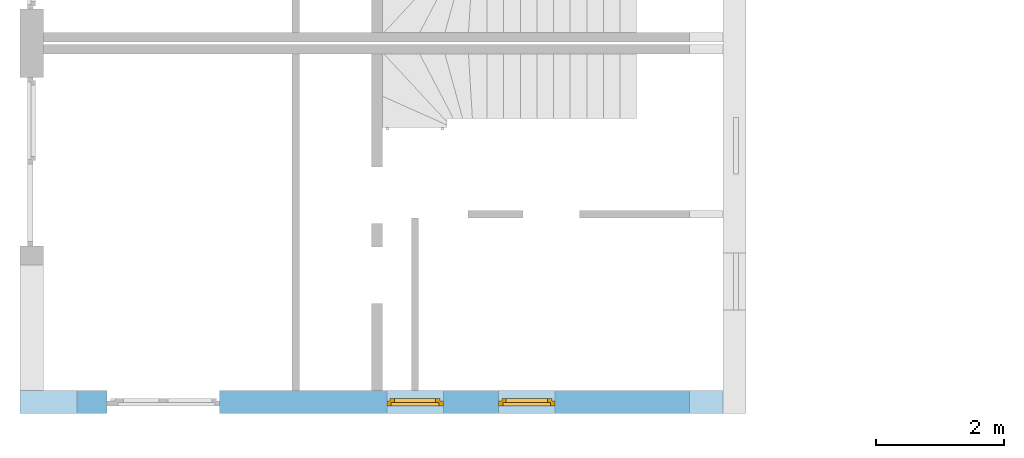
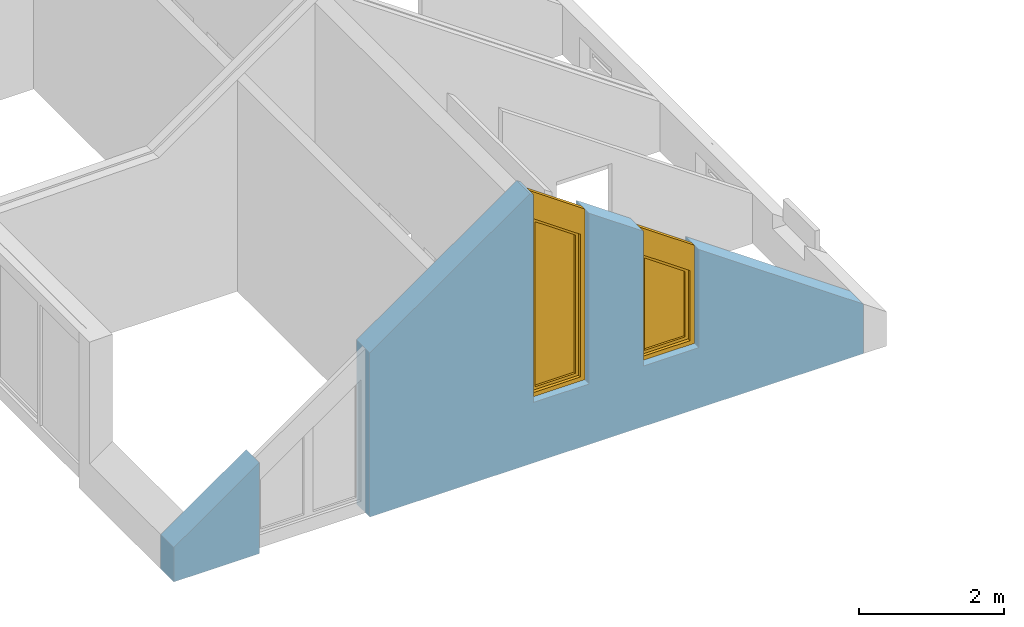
# One storey, part 5 of 23: 2 windows, 3 openings, plus 1 element that does not belong to this part.
"""IFC2X3 building model written with IfcOpenShell, lengths in millimetres."""

from ifc_helpers import new_model, entity, si_unit, converted_unit, frame, frame_2d, origin, origin_with_axes, place, context, subcontext, project, spatial, polyline, rectangle, outline, extrude, clip, bounded_halfspace, faceted_brep, material, layer, layer_set, layer_usage, type_object, element, fill, save


model = new_model("IFC2X3")

# Units and contexts
model_context = context("Model", 3, precision=1e-05, world=origin())
body_context = subcontext(model_context, "Body", "Model", "MODEL_VIEW")
ifc_project = project(units=[si_unit("LENGTHUNIT", "METRE", prefix="MILLI"), converted_unit("PLANEANGLEUNIT", "DEGREE", entity("IfcPlaneAngleMeasure", 0.0174532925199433), si_unit("PLANEANGLEUNIT", "RADIAN"), dimensions=[0, 0, 0, 0, 0, 0, 0]), si_unit("AREAUNIT", "SQUARE_METRE"), si_unit("VOLUMEUNIT", "CUBIC_METRE")], contexts=[model_context])

# Building, storey
building_placement = place(None, origin())
building = spatial("IfcBuilding", under=ifc_project, at=building_placement, Name="Gebäude", CompositionType="ELEMENT")
storey_placement = place(building_placement, frame((0.0, 0.0, 5580.0), z_axis=(0.0, 0.0, 1.0), x_axis=(1.0, 0.0, 0.0)))
storey = spatial("IfcBuildingStorey", under=building, at=storey_placement, Name="DG.- Grundriss", CompositionType="ELEMENT", Elevation=5580.0)

# Wall, openings, windows
ifc_material_1 = material(Name="Poroton")
ifc_layer = layer(ifc_material_1, 365.0000000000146)
ifc_layer_set = layer_set([ifc_layer])
ifc_layer_usage = layer_usage(ifc_layer_set, "AXIS2", "POSITIVE", 0.0)
wall_placement = place(storey_placement, frame((130992.7928067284, 125274.8877324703, 0.0), z_axis=(0.0, 0.0, 1.0), x_axis=(1.0, -2.749253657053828e-11, 0.0)))
wall = element("IfcWallStandardCase", 1, at=wall_placement, inside=storey, material=ifc_layer_usage, Name="<Unnamed Element>", context=body_context, shape_type="Clipping", body=[
    clip(clip(extrude(rectangle(XDim=10999.99999999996, YDim=365.0000000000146, at=frame_2d((5499.999999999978, 182.5000000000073), x_axis=(1.0, 0.0))), origin_with_axes(), (0.0, 0.0, 1.0), 4558.929335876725), bounded_halfspace(frame((5682.499999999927, -3.022829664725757e-12, 4558.929335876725), z_axis=(-0.5735764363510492, -1.576907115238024e-11, -0.8191520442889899), x_axis=(0.8191520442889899, 4.656618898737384e-16, -0.573576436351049)), True, origin(), polyline([(5682.499999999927, -3.022829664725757e-12), (10999.99999999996, 0.0), (10999.99999998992, 365.0000000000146), (5682.499999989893, 365.0000000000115), (5682.499999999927, -3.022829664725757e-12)]))), bounded_halfspace(frame((-1.003477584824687e-08, 365.0000000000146, 580.0000000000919), z_axis=(0.5735764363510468, 1.576907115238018e-11, -0.8191520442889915), x_axis=(2.749253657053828e-11, -1.0, 0.0)), True, origin(), polyline([(-1.003477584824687e-08, 365.0000000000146), (0.0, 0.0), (5682.499999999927, -3.022829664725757e-12), (5682.499999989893, 365.0000000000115), (-1.003477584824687e-08, 365.0000000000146)]))),
])
opening_1_placement = place(wall_placement, frame((1364.999999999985, -7.494236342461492e-12, 0.0), z_axis=(0.0, 1.0, 0.0), x_axis=(0.0, 0.0, 1.0)))
element("IfcOpeningElement", 2, at=opening_1_placement, cuts=wall, Name="Fensteröffnung", ObjectType="Opening", context=body_context, shape_type="SweptSolid", body=[
    extrude(outline(polyline([(1535.783289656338, 0.0), (0.0, 0.0), (0.0, 1760.0), (2768.148556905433, 1760.0), (1535.783289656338, 0.0)])), origin_with_axes(), (0.0, 0.0, 1.0), 365.0000000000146),
])
opening_2_placement = place(wall_placement, frame((7489.999999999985, -3.477907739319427e-11, 1020.0), z_axis=(0.0, 1.0, 0.0), x_axis=(0.0, 0.0, 1.0)))
opening_2 = element("IfcOpeningElement", 3, at=opening_2_placement, cuts=wall, Name="Fensteröffnung", ObjectType="Opening", context=body_context, shape_type="SweptSolid", body=[
    extrude(outline(polyline([(2273.304210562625, 0.0), (0.0, 0.0), (0.0, 885.0), (1653.620539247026, 885.0), (2273.304210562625, 0.0)])), origin_with_axes(), (0.0, 0.0, 1.0), 365.0000000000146),
])
opening_3_placement = place(wall_placement, frame((5739.999999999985, -1.658918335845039e-11, 1020.0), z_axis=(0.0, 1.0, 0.0), x_axis=(0.0, 0.0, 1.0)))
opening_3 = element("IfcOpeningElement", 4, at=opening_3_placement, cuts=wall, Name="Fensteröffnung", ObjectType="Opening", context=body_context, shape_type="SweptSolid", body=[
    extrude(outline(polyline([(3498.667402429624, 0.0), (0.0, 0.0), (0.0, 885.0), (2878.983731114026, 885.0), (3498.667402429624, 0.0)])), origin_with_axes(), (0.0, 0.0, 1.0), 365.0),
])
ifc_material_2 = material()
window_style_1 = type_object("IfcWindowStyle", Name="Fenster", ConstructionType="NOTDEFINED", OperationType="USERDEFINED", ParameterTakesPrecedence=False, Sizeable=False)
window_1_placement = place(opening_2_placement, frame((0.0, 0.0, 0.0), z_axis=(1.0, 0.0, 0.0), x_axis=(0.0, 1.0, 0.0)))
window_1 = element("IfcWindow", 5, at=window_1_placement, inside=storey, type_object=window_style_1, material=ifc_material_2, Name="Fenster", OverallHeight=2273.304210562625, OverallWidth=885.0, context=body_context, shape_type="Brep", body=[
    faceted_brep([(-1.224022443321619e-08, 200.0000000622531, -2.449293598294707e-15), (884.9999999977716, 200.000000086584, -2.449293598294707e-15), (884.9999999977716, 200.0000000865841, 1653.620539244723), (-1.22402244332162e-08, 200.0000000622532, 2273.304210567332), (814.9999999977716, 200.0000000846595, 69.99999999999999), (69.99999998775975, 200.0000000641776, 69.99999999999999), (69.99999998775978, 200.0000000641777, 1772.603085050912), (814.9999999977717, 200.0000000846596, 1250.948469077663), (884.999999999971, 120.000000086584, 2.449293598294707e-15), (-1.004082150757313e-08, 120.0000000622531, 2.449293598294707e-15), (-1.004082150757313e-08, 120.0000000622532, 2273.304210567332), (884.999999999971, 120.0000000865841, 1653.620539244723), (69.99999998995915, 120.0000000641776, 69.99999999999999), (814.999999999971, 120.0000000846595, 69.99999999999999), (814.9999999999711, 120.0000000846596, 1250.948469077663), (69.99999998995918, 120.0000000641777, 1772.603085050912), (884.9999999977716, 200.000000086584, -2.449293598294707e-15), (-1.224022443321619e-08, 200.0000000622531, -2.449293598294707e-15), (-1.004082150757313e-08, 120.0000000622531, 2.449293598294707e-15), (884.999999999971, 120.000000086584, 2.449293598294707e-15), (884.9999999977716, 200.0000000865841, 1653.620539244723), (884.9999999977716, 200.000000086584, -2.449293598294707e-15), (884.999999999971, 120.000000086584, 2.449293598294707e-15), (884.999999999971, 120.0000000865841, 1653.620539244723), (-1.22402244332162e-08, 200.0000000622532, 2273.304210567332), (884.9999999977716, 200.0000000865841, 1653.620539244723), (884.999999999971, 120.0000000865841, 1653.620539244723), (-1.004082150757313e-08, 120.0000000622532, 2273.304210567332), (-1.224022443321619e-08, 200.0000000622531, -2.449293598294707e-15), (-1.22402244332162e-08, 200.0000000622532, 2273.304210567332), (-1.004082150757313e-08, 120.0000000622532, 2273.304210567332), (-1.004082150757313e-08, 120.0000000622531, 2.449293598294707e-15), (814.9999999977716, 200.0000000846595, 69.99999999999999), (814.999999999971, 120.0000000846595, 69.99999999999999), (69.99999998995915, 120.0000000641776, 69.99999999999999), (69.99999998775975, 200.0000000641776, 69.99999999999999), (814.9999999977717, 200.0000000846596, 1250.948469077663), (814.9999999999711, 120.0000000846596, 1250.948469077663), (814.999999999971, 120.0000000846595, 69.99999999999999), (814.9999999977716, 200.0000000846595, 69.99999999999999), (69.99999998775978, 200.0000000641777, 1772.603085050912), (69.99999998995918, 120.0000000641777, 1772.603085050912), (814.9999999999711, 120.0000000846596, 1250.948469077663), (814.9999999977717, 200.0000000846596, 1250.948469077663), (69.99999998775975, 200.0000000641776, 69.99999999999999), (69.99999998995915, 120.0000000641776, 69.99999999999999), (69.99999998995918, 120.0000000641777, 1772.603085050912), (69.99999998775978, 200.0000000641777, 1772.603085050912)], [[[0, 1, 2, 3], [4, 5, 6, 7]], [[8, 9, 10, 11], [12, 13, 14, 15]], [[16, 17, 18, 19]], [[20, 21, 22, 23]], [[24, 25, 26, 27]], [[28, 29, 30, 31]], [[32, 33, 34, 35]], [[36, 37, 38, 39]], [[40, 41, 42, 43]], [[44, 45, 46, 47]]], orient=[[False, False], [False, False], [False], [False], [False], [False], [False], [False], [False], [False]]),
    faceted_brep([(69.99999998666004, 240.0000000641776, 69.99999999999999), (814.9999999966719, 240.0000000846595, 69.99999999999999), (814.999999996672, 240.0000000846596, 1250.948469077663), (69.99999998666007, 240.0000000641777, 1772.603085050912), (764.9999999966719, 240.0000000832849, 120.0), (119.99999998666, 240.0000000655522, 120.0), (119.9999999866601, 240.0000000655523, 1676.553978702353), (764.999999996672, 240.000000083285, 1224.920116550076), (814.9999999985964, 170.0000000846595, 69.99999999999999), (69.99999998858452, 170.0000000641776, 69.99999999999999), (69.99999998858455, 170.0000000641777, 1772.603085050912), (814.9999999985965, 170.0000000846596, 1250.948469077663), (119.9999999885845, 170.0000000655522, 120.0), (764.9999999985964, 170.0000000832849, 120.0), (764.9999999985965, 170.000000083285, 1224.920116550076), (119.9999999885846, 170.0000000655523, 1676.553978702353), (814.9999999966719, 240.0000000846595, 69.99999999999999), (69.99999998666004, 240.0000000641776, 69.99999999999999), (69.99999998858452, 170.0000000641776, 69.99999999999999), (814.9999999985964, 170.0000000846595, 69.99999999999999), (814.999999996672, 240.0000000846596, 1250.948469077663), (814.9999999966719, 240.0000000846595, 69.99999999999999), (814.9999999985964, 170.0000000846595, 69.99999999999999), (814.9999999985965, 170.0000000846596, 1250.948469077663), (69.99999998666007, 240.0000000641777, 1772.603085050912), (814.999999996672, 240.0000000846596, 1250.948469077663), (814.9999999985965, 170.0000000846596, 1250.948469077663), (69.99999998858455, 170.0000000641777, 1772.603085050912), (69.99999998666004, 240.0000000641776, 69.99999999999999), (69.99999998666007, 240.0000000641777, 1772.603085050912), (69.99999998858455, 170.0000000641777, 1772.603085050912), (69.99999998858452, 170.0000000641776, 69.99999999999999), (764.9999999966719, 240.0000000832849, 120.0), (764.9999999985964, 170.0000000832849, 120.0), (119.9999999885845, 170.0000000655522, 120.0), (119.99999998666, 240.0000000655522, 120.0), (764.999999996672, 240.000000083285, 1224.920116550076), (764.9999999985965, 170.000000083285, 1224.920116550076), (764.9999999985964, 170.0000000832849, 120.0), (764.9999999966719, 240.0000000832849, 120.0), (119.9999999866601, 240.0000000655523, 1676.553978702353), (119.9999999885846, 170.0000000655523, 1676.553978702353), (764.9999999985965, 170.000000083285, 1224.920116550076), (764.999999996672, 240.000000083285, 1224.920116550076), (119.99999998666, 240.0000000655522, 120.0), (119.9999999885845, 170.0000000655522, 120.0), (119.9999999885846, 170.0000000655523, 1676.553978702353), (119.9999999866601, 240.0000000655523, 1676.553978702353)], [[[0, 1, 2, 3], [4, 5, 6, 7]], [[8, 9, 10, 11], [12, 13, 14, 15]], [[16, 17, 18, 19]], [[20, 21, 22, 23]], [[24, 25, 26, 27]], [[28, 29, 30, 31]], [[32, 33, 34, 35]], [[36, 37, 38, 39]], [[40, 41, 42, 43]], [[44, 45, 46, 47]]], orient=[[False, False], [False, False], [False], [False], [False], [False], [False], [False], [False], [False]]),
    faceted_brep([(49.99999998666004, 240.0000000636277, 49.99999999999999), (834.9999999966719, 240.0000000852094, 49.99999999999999), (834.999999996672, 240.0000000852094, 1261.359810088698), (49.99999998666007, 240.0000000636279, 1811.022727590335), (814.9999999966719, 240.0000000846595, 69.99999999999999), (69.99999998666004, 240.0000000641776, 69.99999999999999), (69.99999998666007, 240.0000000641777, 1772.603085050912), (814.999999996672, 240.0000000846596, 1250.948469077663), (834.9999999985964, 170.0000000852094, 49.99999999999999), (49.99999998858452, 170.0000000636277, 49.99999999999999), (49.99999998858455, 170.0000000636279, 1811.022727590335), (834.9999999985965, 170.0000000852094, 1261.359810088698), (69.99999998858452, 170.0000000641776, 69.99999999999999), (814.9999999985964, 170.0000000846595, 69.99999999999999), (814.9999999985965, 170.0000000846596, 1250.948469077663), (69.99999998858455, 170.0000000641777, 1772.603085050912), (834.9999999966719, 240.0000000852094, 49.99999999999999), (49.99999998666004, 240.0000000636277, 49.99999999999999), (49.99999998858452, 170.0000000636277, 49.99999999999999), (834.9999999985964, 170.0000000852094, 49.99999999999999), (834.999999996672, 240.0000000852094, 1261.359810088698), (834.9999999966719, 240.0000000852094, 49.99999999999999), (834.9999999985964, 170.0000000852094, 49.99999999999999), (834.9999999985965, 170.0000000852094, 1261.359810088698), (49.99999998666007, 240.0000000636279, 1811.022727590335), (834.999999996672, 240.0000000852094, 1261.359810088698), (834.9999999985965, 170.0000000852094, 1261.359810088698), (49.99999998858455, 170.0000000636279, 1811.022727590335), (49.99999998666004, 240.0000000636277, 49.99999999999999), (49.99999998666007, 240.0000000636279, 1811.022727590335), (49.99999998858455, 170.0000000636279, 1811.022727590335), (49.99999998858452, 170.0000000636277, 49.99999999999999), (814.9999999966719, 240.0000000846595, 69.99999999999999), (814.9999999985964, 170.0000000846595, 69.99999999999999), (69.99999998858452, 170.0000000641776, 69.99999999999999), (69.99999998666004, 240.0000000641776, 69.99999999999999), (814.999999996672, 240.0000000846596, 1250.948469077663), (814.9999999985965, 170.0000000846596, 1250.948469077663), (814.9999999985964, 170.0000000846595, 69.99999999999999), (814.9999999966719, 240.0000000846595, 69.99999999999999), (69.99999998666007, 240.0000000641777, 1772.603085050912), (69.99999998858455, 170.0000000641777, 1772.603085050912), (814.9999999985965, 170.0000000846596, 1250.948469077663), (814.999999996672, 240.0000000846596, 1250.948469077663), (69.99999998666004, 240.0000000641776, 69.99999999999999), (69.99999998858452, 170.0000000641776, 69.99999999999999), (69.99999998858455, 170.0000000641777, 1772.603085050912), (69.99999998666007, 240.0000000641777, 1772.603085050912)], [[[0, 1, 2, 3], [4, 5, 6, 7]], [[8, 9, 10, 11], [12, 13, 14, 15]], [[16, 17, 18, 19]], [[20, 21, 22, 23]], [[24, 25, 26, 27]], [[28, 29, 30, 31]], [[32, 33, 34, 35]], [[36, 37, 38, 39]], [[40, 41, 42, 43]], [[44, 45, 46, 47]]], orient=[[False, False], [False, False], [False], [False], [False], [False], [False], [False], [False], [False]]),
    faceted_brep([(764.9999999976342, 205.0000000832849, 120.0), (764.9999999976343, 205.000000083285, 1224.920116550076), (119.9999999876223, 205.0000000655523, 1676.553978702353), (119.9999999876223, 205.0000000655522, 120.0), (764.9999999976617, 204.0000000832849, 120.0), (119.9999999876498, 204.0000000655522, 120.0), (119.9999999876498, 204.0000000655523, 1676.553978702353), (764.9999999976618, 204.000000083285, 1224.920116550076), (764.9999999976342, 205.0000000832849, 120.0), (764.9999999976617, 204.0000000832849, 120.0), (764.9999999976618, 204.000000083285, 1224.920116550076), (764.9999999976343, 205.000000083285, 1224.920116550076), (764.9999999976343, 205.000000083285, 1224.920116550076), (764.9999999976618, 204.000000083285, 1224.920116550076), (119.9999999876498, 204.0000000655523, 1676.553978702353), (119.9999999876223, 205.0000000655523, 1676.553978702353), (119.9999999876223, 205.0000000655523, 1676.553978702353), (119.9999999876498, 204.0000000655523, 1676.553978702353), (119.9999999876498, 204.0000000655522, 120.0), (119.9999999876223, 205.0000000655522, 120.0), (119.9999999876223, 205.0000000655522, 120.0), (119.9999999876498, 204.0000000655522, 120.0), (764.9999999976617, 204.0000000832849, 120.0), (764.9999999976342, 205.0000000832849, 120.0)], [[[0, 1, 2, 3]], [[4, 5, 6, 7]], [[8, 9, 10, 11]], [[12, 13, 14, 15]], [[16, 17, 18, 19]], [[20, 21, 22, 23]]], orient=[[False], [False], [False], [False], [False], [False]]),
])
fill(opening_2, window_1)
ifc_material_3 = material()
window_style_2 = type_object("IfcWindowStyle", Name="Fenster", ConstructionType="NOTDEFINED", OperationType="USERDEFINED", ParameterTakesPrecedence=False, Sizeable=False)
window_2_placement = place(opening_3_placement, frame((0.0, 0.0, 0.0), z_axis=(1.0, 0.0, 0.0), x_axis=(0.0, 1.0, 0.0)))
window_2 = element("IfcWindow", 6, at=window_2_placement, inside=storey, type_object=window_style_2, material=ifc_material_3, Name="Fenster", OverallHeight=3498.667402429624, OverallWidth=885.0, context=body_context, shape_type="Brep", body=[
    faceted_brep([(-1.224022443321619e-08, 200.0000000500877, -2.449293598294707e-15), (884.9999999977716, 200.0000000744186, -2.449293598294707e-15), (884.9999999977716, 200.0000000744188, 2878.983731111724), (-1.22402244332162e-08, 200.0000000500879, 3498.667402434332), (814.9999999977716, 200.0000000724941, 69.99999999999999), (69.99999998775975, 200.0000000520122, 69.99999999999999), (69.99999998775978, 200.0000000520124, 2997.966276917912), (814.9999999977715, 200.0000000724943, 2476.311660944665), (884.999999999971, 120.0000000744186, 2.449293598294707e-15), (-1.004082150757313e-08, 120.0000000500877, 2.449293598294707e-15), (-1.004082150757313e-08, 120.0000000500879, 3498.667402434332), (884.999999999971, 120.0000000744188, 2878.983731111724), (69.99999998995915, 120.0000000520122, 69.99999999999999), (814.999999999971, 120.0000000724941, 69.99999999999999), (814.9999999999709, 120.0000000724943, 2476.311660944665), (69.99999998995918, 120.0000000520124, 2997.966276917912), (884.9999999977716, 200.0000000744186, -2.449293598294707e-15), (-1.224022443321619e-08, 200.0000000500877, -2.449293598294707e-15), (-1.004082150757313e-08, 120.0000000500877, 2.449293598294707e-15), (884.999999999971, 120.0000000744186, 2.449293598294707e-15), (884.9999999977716, 200.0000000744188, 2878.983731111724), (884.9999999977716, 200.0000000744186, -2.449293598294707e-15), (884.999999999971, 120.0000000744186, 2.449293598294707e-15), (884.999999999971, 120.0000000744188, 2878.983731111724), (-1.22402244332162e-08, 200.0000000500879, 3498.667402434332), (884.9999999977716, 200.0000000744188, 2878.983731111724), (884.999999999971, 120.0000000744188, 2878.983731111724), (-1.004082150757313e-08, 120.0000000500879, 3498.667402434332), (-1.224022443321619e-08, 200.0000000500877, -2.449293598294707e-15), (-1.22402244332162e-08, 200.0000000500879, 3498.667402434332), (-1.004082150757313e-08, 120.0000000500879, 3498.667402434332), (-1.004082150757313e-08, 120.0000000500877, 2.449293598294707e-15), (814.9999999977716, 200.0000000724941, 69.99999999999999), (814.999999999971, 120.0000000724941, 69.99999999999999), (69.99999998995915, 120.0000000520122, 69.99999999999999), (69.99999998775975, 200.0000000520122, 69.99999999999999), (814.9999999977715, 200.0000000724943, 2476.311660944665), (814.9999999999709, 120.0000000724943, 2476.311660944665), (814.999999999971, 120.0000000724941, 69.99999999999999), (814.9999999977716, 200.0000000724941, 69.99999999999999), (69.99999998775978, 200.0000000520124, 2997.966276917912), (69.99999998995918, 120.0000000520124, 2997.966276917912), (814.9999999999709, 120.0000000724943, 2476.311660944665), (814.9999999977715, 200.0000000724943, 2476.311660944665), (69.99999998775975, 200.0000000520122, 69.99999999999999), (69.99999998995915, 120.0000000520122, 69.99999999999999), (69.99999998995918, 120.0000000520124, 2997.966276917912), (69.99999998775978, 200.0000000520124, 2997.966276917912)], [[[0, 1, 2, 3], [4, 5, 6, 7]], [[8, 9, 10, 11], [12, 13, 14, 15]], [[16, 17, 18, 19]], [[20, 21, 22, 23]], [[24, 25, 26, 27]], [[28, 29, 30, 31]], [[32, 33, 34, 35]], [[36, 37, 38, 39]], [[40, 41, 42, 43]], [[44, 45, 46, 47]]], orient=[[False, False], [False, False], [False], [False], [False], [False], [False], [False], [False], [False]]),
    faceted_brep([(69.99999998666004, 240.0000000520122, 69.99999999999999), (814.9999999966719, 240.0000000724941, 69.99999999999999), (814.9999999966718, 240.0000000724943, 2476.311660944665), (69.99999998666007, 240.0000000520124, 2997.966276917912), (764.9999999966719, 240.0000000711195, 120.0), (119.99999998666, 240.0000000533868, 120.0), (119.9999999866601, 240.000000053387, 2901.917170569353), (764.9999999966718, 240.0000000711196, 2450.283308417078), (814.9999999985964, 170.0000000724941, 69.99999999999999), (69.99999998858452, 170.0000000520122, 69.99999999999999), (69.99999998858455, 170.0000000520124, 2997.966276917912), (814.9999999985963, 170.0000000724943, 2476.311660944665), (119.9999999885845, 170.0000000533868, 120.0), (764.9999999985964, 170.0000000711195, 120.0), (764.9999999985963, 170.0000000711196, 2450.283308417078), (119.9999999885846, 170.000000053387, 2901.917170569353), (814.9999999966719, 240.0000000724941, 69.99999999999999), (69.99999998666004, 240.0000000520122, 69.99999999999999), (69.99999998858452, 170.0000000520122, 69.99999999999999), (814.9999999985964, 170.0000000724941, 69.99999999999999), (814.9999999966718, 240.0000000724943, 2476.311660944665), (814.9999999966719, 240.0000000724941, 69.99999999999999), (814.9999999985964, 170.0000000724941, 69.99999999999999), (814.9999999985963, 170.0000000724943, 2476.311660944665), (69.99999998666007, 240.0000000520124, 2997.966276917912), (814.9999999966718, 240.0000000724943, 2476.311660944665), (814.9999999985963, 170.0000000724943, 2476.311660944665), (69.99999998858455, 170.0000000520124, 2997.966276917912), (69.99999998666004, 240.0000000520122, 69.99999999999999), (69.99999998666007, 240.0000000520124, 2997.966276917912), (69.99999998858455, 170.0000000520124, 2997.966276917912), (69.99999998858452, 170.0000000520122, 69.99999999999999), (764.9999999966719, 240.0000000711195, 120.0), (764.9999999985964, 170.0000000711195, 120.0), (119.9999999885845, 170.0000000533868, 120.0), (119.99999998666, 240.0000000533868, 120.0), (764.9999999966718, 240.0000000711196, 2450.283308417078), (764.9999999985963, 170.0000000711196, 2450.283308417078), (764.9999999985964, 170.0000000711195, 120.0), (764.9999999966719, 240.0000000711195, 120.0), (119.9999999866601, 240.000000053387, 2901.917170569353), (119.9999999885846, 170.000000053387, 2901.917170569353), (764.9999999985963, 170.0000000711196, 2450.283308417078), (764.9999999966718, 240.0000000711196, 2450.283308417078), (119.99999998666, 240.0000000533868, 120.0), (119.9999999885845, 170.0000000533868, 120.0), (119.9999999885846, 170.000000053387, 2901.917170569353), (119.9999999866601, 240.000000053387, 2901.917170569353)], [[[0, 1, 2, 3], [4, 5, 6, 7]], [[8, 9, 10, 11], [12, 13, 14, 15]], [[16, 17, 18, 19]], [[20, 21, 22, 23]], [[24, 25, 26, 27]], [[28, 29, 30, 31]], [[32, 33, 34, 35]], [[36, 37, 38, 39]], [[40, 41, 42, 43]], [[44, 45, 46, 47]]], orient=[[False, False], [False, False], [False], [False], [False], [False], [False], [False], [False], [False]]),
    faceted_brep([(49.99999998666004, 240.0000000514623, 49.99999999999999), (834.9999999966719, 240.000000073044, 49.99999999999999), (834.9999999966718, 240.0000000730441, 2486.7230019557), (49.99999998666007, 240.0000000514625, 3036.385919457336), (814.9999999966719, 240.0000000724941, 69.99999999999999), (69.99999998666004, 240.0000000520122, 69.99999999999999), (69.99999998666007, 240.0000000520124, 2997.966276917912), (814.9999999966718, 240.0000000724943, 2476.311660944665), (834.9999999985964, 170.000000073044, 49.99999999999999), (49.99999998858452, 170.0000000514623, 49.99999999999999), (49.99999998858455, 170.0000000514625, 3036.385919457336), (834.9999999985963, 170.0000000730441, 2486.7230019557), (69.99999998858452, 170.0000000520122, 69.99999999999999), (814.9999999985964, 170.0000000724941, 69.99999999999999), (814.9999999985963, 170.0000000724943, 2476.311660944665), (69.99999998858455, 170.0000000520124, 2997.966276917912), (834.9999999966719, 240.000000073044, 49.99999999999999), (49.99999998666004, 240.0000000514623, 49.99999999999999), (49.99999998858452, 170.0000000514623, 49.99999999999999), (834.9999999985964, 170.000000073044, 49.99999999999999), (834.9999999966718, 240.0000000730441, 2486.7230019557), (834.9999999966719, 240.000000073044, 49.99999999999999), (834.9999999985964, 170.000000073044, 49.99999999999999), (834.9999999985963, 170.0000000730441, 2486.7230019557), (49.99999998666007, 240.0000000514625, 3036.385919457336), (834.9999999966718, 240.0000000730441, 2486.7230019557), (834.9999999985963, 170.0000000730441, 2486.7230019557), (49.99999998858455, 170.0000000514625, 3036.385919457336), (49.99999998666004, 240.0000000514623, 49.99999999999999), (49.99999998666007, 240.0000000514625, 3036.385919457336), (49.99999998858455, 170.0000000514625, 3036.385919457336), (49.99999998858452, 170.0000000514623, 49.99999999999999), (814.9999999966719, 240.0000000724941, 69.99999999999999), (814.9999999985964, 170.0000000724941, 69.99999999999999), (69.99999998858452, 170.0000000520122, 69.99999999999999), (69.99999998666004, 240.0000000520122, 69.99999999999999), (814.9999999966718, 240.0000000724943, 2476.311660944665), (814.9999999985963, 170.0000000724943, 2476.311660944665), (814.9999999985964, 170.0000000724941, 69.99999999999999), (814.9999999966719, 240.0000000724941, 69.99999999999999), (69.99999998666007, 240.0000000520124, 2997.966276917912), (69.99999998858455, 170.0000000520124, 2997.966276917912), (814.9999999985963, 170.0000000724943, 2476.311660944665), (814.9999999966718, 240.0000000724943, 2476.311660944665), (69.99999998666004, 240.0000000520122, 69.99999999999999), (69.99999998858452, 170.0000000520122, 69.99999999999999), (69.99999998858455, 170.0000000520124, 2997.966276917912), (69.99999998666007, 240.0000000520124, 2997.966276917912)], [[[0, 1, 2, 3], [4, 5, 6, 7]], [[8, 9, 10, 11], [12, 13, 14, 15]], [[16, 17, 18, 19]], [[20, 21, 22, 23]], [[24, 25, 26, 27]], [[28, 29, 30, 31]], [[32, 33, 34, 35]], [[36, 37, 38, 39]], [[40, 41, 42, 43]], [[44, 45, 46, 47]]], orient=[[False, False], [False, False], [False], [False], [False], [False], [False], [False], [False], [False]]),
    faceted_brep([(764.9999999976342, 205.0000000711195, 120.0), (764.9999999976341, 205.0000000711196, 2450.283308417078), (119.9999999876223, 205.000000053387, 2901.917170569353), (119.9999999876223, 205.0000000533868, 120.0), (764.9999999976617, 204.0000000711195, 120.0), (119.9999999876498, 204.0000000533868, 120.0), (119.9999999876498, 204.000000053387, 2901.917170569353), (764.9999999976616, 204.0000000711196, 2450.283308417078), (764.9999999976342, 205.0000000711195, 120.0), (764.9999999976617, 204.0000000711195, 120.0), (764.9999999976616, 204.0000000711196, 2450.283308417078), (764.9999999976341, 205.0000000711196, 2450.283308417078), (764.9999999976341, 205.0000000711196, 2450.283308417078), (764.9999999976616, 204.0000000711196, 2450.283308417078), (119.9999999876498, 204.000000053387, 2901.917170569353), (119.9999999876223, 205.000000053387, 2901.917170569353), (119.9999999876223, 205.000000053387, 2901.917170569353), (119.9999999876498, 204.000000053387, 2901.917170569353), (119.9999999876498, 204.0000000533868, 120.0), (119.9999999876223, 205.0000000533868, 120.0), (119.9999999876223, 205.0000000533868, 120.0), (119.9999999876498, 204.0000000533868, 120.0), (764.9999999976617, 204.0000000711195, 120.0), (764.9999999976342, 205.0000000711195, 120.0)], [[[0, 1, 2, 3]], [[4, 5, 6, 7]], [[8, 9, 10, 11]], [[12, 13, 14, 15]], [[16, 17, 18, 19]], [[20, 21, 22, 23]]], orient=[[False], [False], [False], [False], [False], [False]]),
])
fill(opening_3, window_2)

save(model, "model.ifc")
